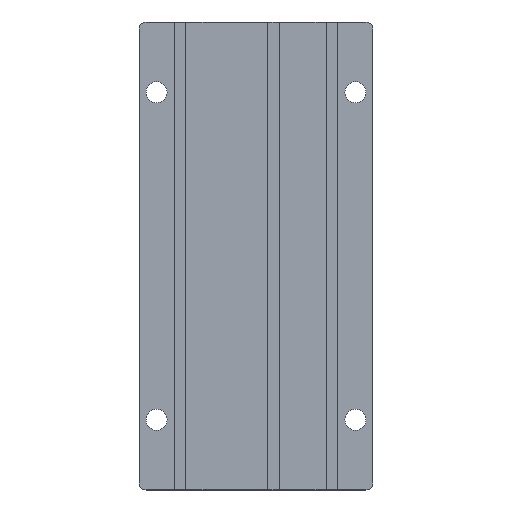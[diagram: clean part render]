
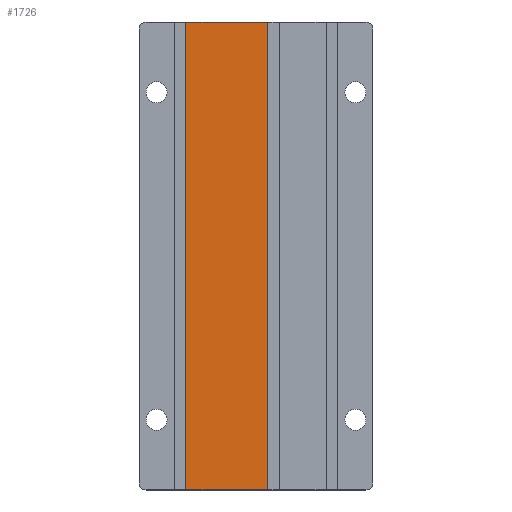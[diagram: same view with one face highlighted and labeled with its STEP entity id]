
A CAD part, top view. The second image highlights one B-rep face of the part: STEP entity #1726.
In plain terms, the highlighted planar face has unit normal (0, 0, 1).
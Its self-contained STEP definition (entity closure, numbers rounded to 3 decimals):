
#182 = PLANE('',#183);
#183 = AXIS2_PLACEMENT_3D('',#184,#185,#186);
#184 = CARTESIAN_POINT('',(-20.,-40.,0.));
#185 = DIRECTION('',(0.,1.,0.));
#186 = DIRECTION('',(0.,0.,1.));
#236 = PLANE('',#237);
#237 = AXIS2_PLACEMENT_3D('',#238,#239,#240);
#238 = CARTESIAN_POINT('',(-20.,40.,0.));
#239 = DIRECTION('',(0.,1.,0.));
#240 = DIRECTION('',(0.,0.,1.));
#759 = VERTEX_POINT('',#760);
#760 = CARTESIAN_POINT('',(-12.,-40.,2.));
#774 = PLANE('',#775);
#775 = AXIS2_PLACEMENT_3D('',#776,#777,#778);
#776 = CARTESIAN_POINT('',(-12.,-41.,2.));
#777 = DIRECTION('',(1.,0.,0.));
#778 = DIRECTION('',(0.,0.,1.));
#785 = EDGE_CURVE('',#759,#786,#788,.T.);
#786 = VERTEX_POINT('',#787);
#787 = CARTESIAN_POINT('',(2.,-40.,2.));
#788 = SURFACE_CURVE('',#789,(#793,#800),.PCURVE_S1.);
#789 = LINE('',#790,#791);
#790 = CARTESIAN_POINT('',(-13.,-40.,2.));
#791 = VECTOR('',#792,1.);
#792 = DIRECTION('',(1.,0.,0.));
#793 = PCURVE('',#182,#794);
#794 = DEFINITIONAL_REPRESENTATION('',(#795),#799);
#795 = LINE('',#796,#797);
#796 = CARTESIAN_POINT('',(2.,7.));
#797 = VECTOR('',#798,1.);
#798 = DIRECTION('',(0.,1.));
#799 = ( GEOMETRIC_REPRESENTATION_CONTEXT(2) 
PARAMETRIC_REPRESENTATION_CONTEXT() REPRESENTATION_CONTEXT('2D SPACE',''
  ) );
#800 = PCURVE('',#801,#806);
#801 = PLANE('',#802);
#802 = AXIS2_PLACEMENT_3D('',#803,#804,#805);
#803 = CARTESIAN_POINT('',(-12.,-41.,2.));
#804 = DIRECTION('',(0.,0.,1.));
#805 = DIRECTION('',(1.,0.,0.));
#806 = DEFINITIONAL_REPRESENTATION('',(#807),#810);
#807 = B_SPLINE_CURVE_WITH_KNOTS('',1,(#808,#809),.UNSPECIFIED.,.F.,.F.,
  (2,2),(1.,25.),.PIECEWISE_BEZIER_KNOTS.);
#808 = CARTESIAN_POINT('',(0.,1.));
#809 = CARTESIAN_POINT('',(24.,1.));
#810 = ( GEOMETRIC_REPRESENTATION_CONTEXT(2) 
PARAMETRIC_REPRESENTATION_CONTEXT() REPRESENTATION_CONTEXT('2D SPACE',''
  ) );
#828 = PLANE('',#829);
#829 = AXIS2_PLACEMENT_3D('',#830,#831,#832);
#830 = CARTESIAN_POINT('',(2.,-40.,0.));
#831 = DIRECTION('',(1.,0.,0.));
#832 = DIRECTION('',(0.,0.,1.));
#1109 = VERTEX_POINT('',#1110);
#1110 = CARTESIAN_POINT('',(-12.,40.,2.));
#1130 = EDGE_CURVE('',#1109,#1131,#1133,.T.);
#1131 = VERTEX_POINT('',#1132);
#1132 = CARTESIAN_POINT('',(2.,40.,2.));
#1133 = SURFACE_CURVE('',#1134,(#1138,#1145),.PCURVE_S1.);
#1134 = LINE('',#1135,#1136);
#1135 = CARTESIAN_POINT('',(-13.,40.,2.));
#1136 = VECTOR('',#1137,1.);
#1137 = DIRECTION('',(1.,0.,0.));
#1138 = PCURVE('',#236,#1139);
#1139 = DEFINITIONAL_REPRESENTATION('',(#1140),#1144);
#1140 = LINE('',#1141,#1142);
#1141 = CARTESIAN_POINT('',(2.,7.));
#1142 = VECTOR('',#1143,1.);
#1143 = DIRECTION('',(0.,1.));
#1144 = ( GEOMETRIC_REPRESENTATION_CONTEXT(2) 
PARAMETRIC_REPRESENTATION_CONTEXT() REPRESENTATION_CONTEXT('2D SPACE',''
  ) );
#1145 = PCURVE('',#801,#1146);
#1146 = DEFINITIONAL_REPRESENTATION('',(#1147),#1150);
#1147 = B_SPLINE_CURVE_WITH_KNOTS('',1,(#1148,#1149),.UNSPECIFIED.,.F.,
  .F.,(2,2),(1.,25.),.PIECEWISE_BEZIER_KNOTS.);
#1148 = CARTESIAN_POINT('',(0.,81.));
#1149 = CARTESIAN_POINT('',(24.,81.));
#1150 = ( GEOMETRIC_REPRESENTATION_CONTEXT(2) 
PARAMETRIC_REPRESENTATION_CONTEXT() REPRESENTATION_CONTEXT('2D SPACE',''
  ) );
#1704 = EDGE_CURVE('',#759,#1109,#1705,.T.);
#1705 = SURFACE_CURVE('',#1706,(#1710,#1717),.PCURVE_S1.);
#1706 = LINE('',#1707,#1708);
#1707 = CARTESIAN_POINT('',(-12.,-41.,2.));
#1708 = VECTOR('',#1709,1.);
#1709 = DIRECTION('',(0.,1.,0.));
#1710 = PCURVE('',#774,#1711);
#1711 = DEFINITIONAL_REPRESENTATION('',(#1712),#1716);
#1712 = LINE('',#1713,#1714);
#1713 = CARTESIAN_POINT('',(0.,0.));
#1714 = VECTOR('',#1715,1.);
#1715 = DIRECTION('',(0.,-1.));
#1716 = ( GEOMETRIC_REPRESENTATION_CONTEXT(2) 
PARAMETRIC_REPRESENTATION_CONTEXT() REPRESENTATION_CONTEXT('2D SPACE',''
  ) );
#1717 = PCURVE('',#801,#1718);
#1718 = DEFINITIONAL_REPRESENTATION('',(#1719),#1723);
#1719 = LINE('',#1720,#1721);
#1720 = CARTESIAN_POINT('',(0.,0.));
#1721 = VECTOR('',#1722,1.);
#1722 = DIRECTION('',(0.,1.));
#1723 = ( GEOMETRIC_REPRESENTATION_CONTEXT(2) 
PARAMETRIC_REPRESENTATION_CONTEXT() REPRESENTATION_CONTEXT('2D SPACE',''
  ) );
#1726 = ADVANCED_FACE('',(#1727),#801,.T.);
#1727 = FACE_BOUND('',#1728,.T.);
#1728 = EDGE_LOOP('',(#1729,#1730,#1731,#1750));
#1729 = ORIENTED_EDGE('',*,*,#1704,.F.);
#1730 = ORIENTED_EDGE('',*,*,#785,.T.);
#1731 = ORIENTED_EDGE('',*,*,#1732,.T.);
#1732 = EDGE_CURVE('',#786,#1131,#1733,.T.);
#1733 = SURFACE_CURVE('',#1734,(#1738,#1744),.PCURVE_S1.);
#1734 = LINE('',#1735,#1736);
#1735 = CARTESIAN_POINT('',(2.,-40.5,2.));
#1736 = VECTOR('',#1737,1.);
#1737 = DIRECTION('',(0.,1.,0.));
#1738 = PCURVE('',#801,#1739);
#1739 = DEFINITIONAL_REPRESENTATION('',(#1740),#1743);
#1740 = B_SPLINE_CURVE_WITH_KNOTS('',1,(#1741,#1742),.UNSPECIFIED.,.F.,
  .F.,(2,2),(0.5,80.5),.PIECEWISE_BEZIER_KNOTS.);
#1741 = CARTESIAN_POINT('',(14.,1.));
#1742 = CARTESIAN_POINT('',(14.,81.));
#1743 = ( GEOMETRIC_REPRESENTATION_CONTEXT(2) 
PARAMETRIC_REPRESENTATION_CONTEXT() REPRESENTATION_CONTEXT('2D SPACE',''
  ) );
#1744 = PCURVE('',#828,#1745);
#1745 = DEFINITIONAL_REPRESENTATION('',(#1746),#1749);
#1746 = B_SPLINE_CURVE_WITH_KNOTS('',1,(#1747,#1748),.UNSPECIFIED.,.F.,
  .F.,(2,2),(0.5,80.5),.PIECEWISE_BEZIER_KNOTS.);
#1747 = CARTESIAN_POINT('',(2.,0.));
#1748 = CARTESIAN_POINT('',(2.,-80.));
#1749 = ( GEOMETRIC_REPRESENTATION_CONTEXT(2) 
PARAMETRIC_REPRESENTATION_CONTEXT() REPRESENTATION_CONTEXT('2D SPACE',''
  ) );
#1750 = ORIENTED_EDGE('',*,*,#1130,.F.);
